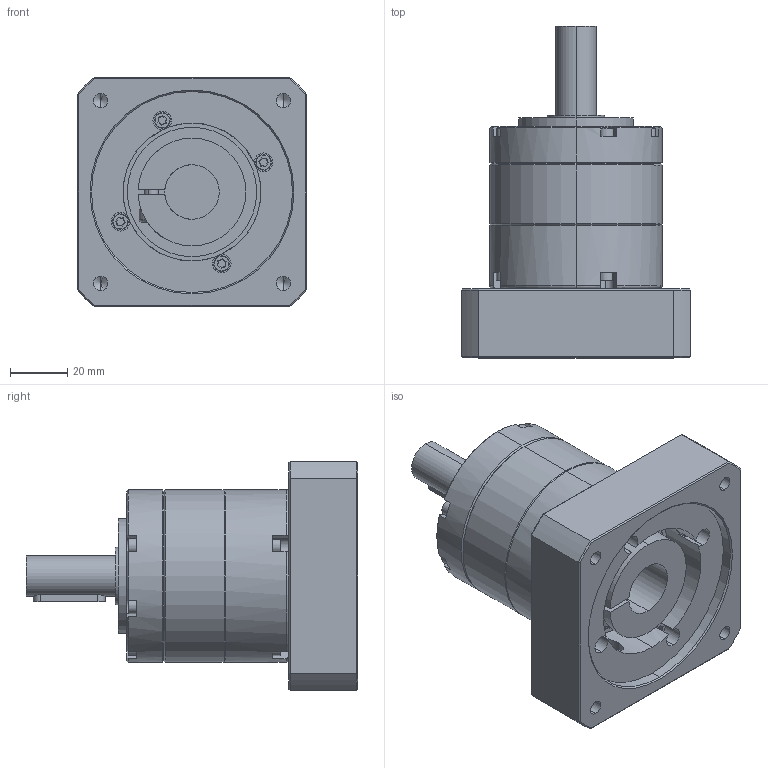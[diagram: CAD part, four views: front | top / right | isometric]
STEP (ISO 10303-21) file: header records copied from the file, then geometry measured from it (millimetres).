
FILE_DESCRIPTION (( 'STEP AP203' ), '1' );
FILE_NAME ('1G2YS.070080.031.STEP', '2019-05-15T08:39:37', ( '' ), ( '' ), 'SwSTEP 2.0', 'SolidWorks 2010', '' );
FILE_SCHEMA (( 'CONFIG_CONTROL_DESIGN' ));
Length unit declared in the file: millimetre
Products named in the file (10): M3､ｺ､ｻｨ､ﾁｳｵｷ[ｼﾒｲﾕ､ﾆ]06~60mm_25mm; 234BN23210_3.成品; 雙圓鍵5x25; PNS60-B(模型縮短)_5.成品; PAN23-BP(模型)_2.加大?19; M5､ｺ､ｻｨ､ﾁｳｵｷ[ｼﾒｲﾕ､ﾆ]8~95mm_015mm; PNS60-(模型縮短)_4.成品; 1G2YS.070080.031; M3､ｺ､ｻｨ､ﾁｳｵｷ[ｼﾒｲﾕ､ﾆ]06~60mm_18mm; M3､ｺ､ｻｨ､ﾁｳｵｷ[ｼﾒｲﾕ､ﾆ]06~60mm_16mm
Assembly tree (20 placements, depth 2):
  1G2YS.070080.031
    M3､ｺ､ｻｨ､ﾁｳｵｷ[ｼﾒｲﾕ､ﾆ]06~60mm_16mm  x6
    PAN23-BP(模型)_2.加大?19
    M3､ｺ､ｻｨ､ﾁｳｵｷ[ｼﾒｲﾕ､ﾆ]06~60mm_18mm  x4
    M3､ｺ､ｻｨ､ﾁｳｵｷ[ｼﾒｲﾕ､ﾆ]06~60mm_25mm  x4
    PNS60-B(模型縮短)_5.成品
    M5､ｺ､ｻｨ､ﾁｳｵｷ[ｼﾒｲﾕ､ﾆ]8~95mm_015mm
    雙圓鍵5x25
    PNS60-(模型縮短)_4.成品
    234BN23210_3.成品
Bounding box: 80 x 115.5 x 80 mm (x, y, z)
Volume: 277745.7 mm3; surface area: 68121.4 mm2
Topology: 20 solids, 20 shells, 657 faces, 1524 edges, 933 vertices
Faces by surface type: plane 314, cylinder 208, cone 121, torus 14
Entity records: 13446 total; most frequent: CARTESIAN_POINT 2486, DIRECTION 2162, ORIENTED_EDGE 1896, EDGE_CURVE 948, AXIS2_PLACEMENT_3D 855, VERTEX_POINT 603, EDGE_LOOP 471, LINE 452
